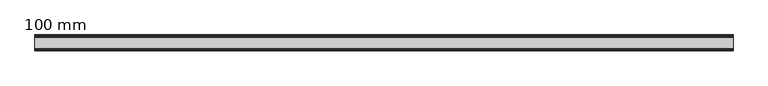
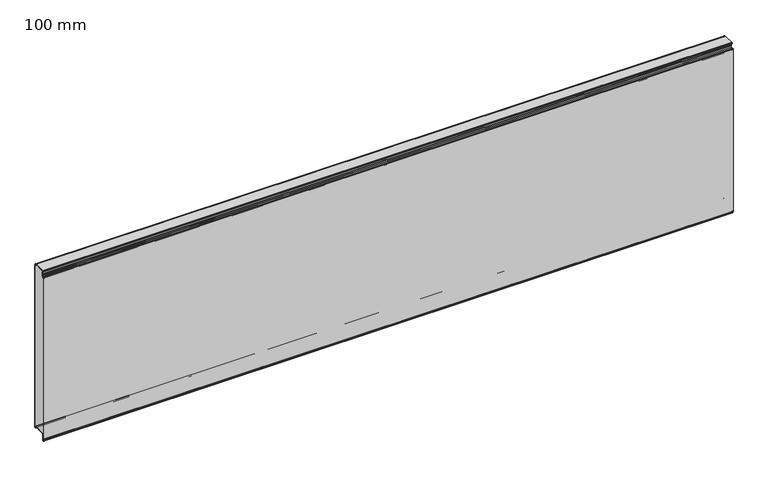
"""IFC4 building model written with IfcOpenShell, lengths in millimetres: plate geometry, HIANSA PANEL - H20.F05.004-HFM-PANELES DE FACHADA HOR - PANEL LISO - Panel de Muro Cortina : 100 mm."""

from ifc_helpers import new_model, si_unit, point, frame, frame_2d, origin, place, context, project, spatial, polyline, circle_curve, trimmed, segment, composite_curve, outline, extrude, source, transform, mapped, element, save


def plate_100_mm_0b3a8853(model_context):
    return source(origin(), model_context, "Body", "SweptSolid", [
        extrude(outline(polyline([(-83.7988607, 1122.7800953), (-83.0080811, 1123.2810466), (-13.7002601, 1123.2810466), (-12.8994274, 1122.7800953), (-83.7988607, 1122.7800953)])), frame((-2200.0, 0.0, 0.0), z_axis=(1.0, 0.0, 0.0), x_axis=(0.0, 1.0, 0.0)), (0.0, 0.0, 1.0), 4400.0),
        extrude(outline(polyline([(-83.772834, 25.3210467), (-12.920579, 25.3210467), (-13.7002597, 24.8210465), (-83.011032, 24.8210465), (-83.772834, 25.3210467)])), frame((-2200.0, 0.0, 0.0), z_axis=(1.0, 0.0, 0.0), x_axis=(0.0, 1.0, 0.0)), (0.0, 0.0, 1.0), 4400.0),
        extrude(outline(composite_curve([segment(polyline([(-99.9990488, 1086.1667807), (-99.3593999, 1088.7253764)]), True, "CONTINUOUS"), segment(trimmed(circle_curve(frame_2d((-97.5161291, 1088.2645587)), 1.9), [point((-99.3593999, 1088.7253764))], [point((-97.5161291, 1090.1645587))], False, "CARTESIAN"), True, "CONTINUOUS"), segment(polyline([(-97.5161291, 1090.1645587), (-95.3767084, 1090.1645587)]), True, "CONTINUOUS"), segment(trimmed(circle_curve(frame_2d((-95.3767084, 1089.1645587)), 1.0), [point((-95.3767084, 1090.1645587))], [point((-94.3767084, 1089.1645587))], False, "CARTESIAN"), True, "CONTINUOUS"), segment(polyline([(-94.3767084, 1089.1645587), (-94.3767084, 1079.2490488)]), True, "CONTINUOUS"), segment(trimmed(circle_curve(frame_2d((-93.3767084, 1079.2490488)), 1.0), [point((-94.3767084, 1079.2490488))], [point((-93.3767084, 1078.2490488))], True, "CARTESIAN"), True, "CONTINUOUS"), segment(polyline([(-93.3767084, 1078.2490488), (-89.1267084, 1078.2490488)]), True, "CONTINUOUS"), segment(trimmed(circle_curve(frame_2d((-89.1267084, 1079.2490488)), 1.0), [point((-89.1267084, 1078.2490488))], [point((-88.1267084, 1079.2490488))], True, "CARTESIAN"), True, "CONTINUOUS"), segment(polyline([(-88.1267084, 1079.2490488), (-88.1267084, 1082.1003519)]), True, "CONTINUOUS"), segment(trimmed(circle_curve(frame_2d((-86.1267084, 1082.1003519)), 2.0), [point((-88.1267084, 1082.1003519))], [point((-87.2738613, 1083.738656))], False, "CARTESIAN"), True, "CONTINUOUS"), segment(polyline([(-87.2738613, 1083.738656), (-81.2163437, 1087.9801754)]), True, "CONTINUOUS"), segment(trimmed(circle_curve(frame_2d((-82.0767084, 1089.2089035)), 1.5), [point((-81.2163437, 1087.9801754))], [point((-80.5767084, 1089.2089035))], True, "CARTESIAN"), True, "CONTINUOUS"), segment(polyline([(-80.5767084, 1089.2089035), (-80.5767084, 1098.4402031), (-79.6767084, 1099.9990488), (-80.5767084, 1101.5578945), (-80.5767084, 1110.7891941)]), True, "CONTINUOUS"), segment(trimmed(circle_curve(frame_2d((-82.0767084, 1110.7891941)), 1.5), [point((-80.5767084, 1110.7891941))], [point((-81.2163437, 1112.0179221))], True, "CARTESIAN"), True, "CONTINUOUS"), segment(polyline([(-81.2163437, 1112.0179221), (-87.2738613, 1116.2594416)]), True, "CONTINUOUS"), segment(trimmed(circle_curve(frame_2d((-86.1267084, 1117.8977457)), 2.0), [point((-87.2738613, 1116.2594416))], [point((-88.1267084, 1117.8977457))], False, "CARTESIAN"), True, "CONTINUOUS"), segment(polyline([(-88.1267084, 1117.8977457), (-88.1267084, 1121.2800953)]), True, "CONTINUOUS"), segment(trimmed(circle_curve(frame_2d((-86.1267084, 1121.2800953)), 2.0), [point((-88.1267084, 1121.2800953))], [point((-86.1267084, 1123.2800953))], False, "CARTESIAN"), True, "CONTINUOUS"), segment(polyline([(-86.1267084, 1123.2800953), (-83.0095828, 1123.2800953), (-83.7988607, 1122.7800953), (-86.1267084, 1122.7800953)]), True, "CONTINUOUS"), segment(trimmed(circle_curve(frame_2d((-86.1267084, 1121.2800953)), 1.5), [point((-86.1267084, 1122.7800953))], [point((-87.6267084, 1121.2800953))], True, "CARTESIAN"), True, "CONTINUOUS"), segment(polyline([(-87.6267084, 1121.2800953), (-87.6267084, 1117.8977457)]), True, "CONTINUOUS"), segment(trimmed(circle_curve(frame_2d((-86.1267084, 1117.8977457)), 1.5), [point((-87.6267084, 1117.8977457))], [point((-86.987073, 1116.6690176))], True, "CARTESIAN"), True, "CONTINUOUS"), segment(polyline([(-86.987073, 1116.6690176), (-80.9295555, 1112.4274982)]), True, "CONTINUOUS"), segment(trimmed(circle_curve(frame_2d((-82.0767084, 1110.7891941)), 2.0), [point((-80.9295555, 1112.4274982))], [point((-80.0767084, 1110.7891941))], False, "CARTESIAN"), True, "CONTINUOUS"), segment(polyline([(-80.0767084, 1110.7891941), (-80.0767084, 1101.6918691), (-79.3880333, 1100.4990488)]), True, "CONTINUOUS"), segment(trimmed(circle_curve(frame_2d((-80.2540587, 1099.9990488)), 1.0), [point((-79.3880333, 1100.4990488))], [point((-79.3880333, 1099.4990488))], False, "CARTESIAN"), True, "CONTINUOUS"), segment(polyline([(-79.3880333, 1099.4990488), (-80.0767084, 1098.3062285), (-80.0767084, 1089.2089035)]), True, "CONTINUOUS"), segment(trimmed(circle_curve(frame_2d((-82.0767084, 1089.2089035)), 2.0), [point((-80.0767084, 1089.2089035))], [point((-80.9295555, 1087.5705994))], False, "CARTESIAN"), True, "CONTINUOUS"), segment(polyline([(-80.9295555, 1087.5705994), (-86.987073, 1083.32908)]), True, "CONTINUOUS"), segment(trimmed(circle_curve(frame_2d((-86.1267084, 1082.1003519)), 1.5), [point((-86.987073, 1083.32908))], [point((-87.6267084, 1082.1003519))], True, "CARTESIAN"), True, "CONTINUOUS"), segment(polyline([(-87.6267084, 1082.1003519), (-87.6267084, 1079.2490488)]), True, "CONTINUOUS"), segment(trimmed(circle_curve(frame_2d((-89.1267084, 1079.2490488)), 1.5), [point((-87.6267084, 1079.2490488))], [point((-89.1267084, 1077.7490488))], False, "CARTESIAN"), True, "CONTINUOUS"), segment(polyline([(-89.1267084, 1077.7490488), (-93.3767084, 1077.7490488)]), True, "CONTINUOUS"), segment(trimmed(circle_curve(frame_2d((-93.3767084, 1079.2490488)), 1.5), [point((-93.3767084, 1077.7490488))], [point((-94.8767084, 1079.2490488))], False, "CARTESIAN"), True, "CONTINUOUS"), segment(polyline([(-94.8767084, 1079.2490488), (-94.8767084, 1089.6645587), (-97.5161291, 1089.6645587)]), True, "CONTINUOUS"), segment(trimmed(circle_curve(frame_2d((-97.5161291, 1088.2645587)), 1.4), [point((-97.5161291, 1089.6645587))], [point((-98.8743286, 1088.6041086))], True, "CARTESIAN"), True, "CONTINUOUS"), segment(polyline([(-98.8743286, 1088.6041086), (-99.4990488, 1086.1052279), (-99.4990488, -5.7761105), (-98.8741312, -8.2757808)]), True, "CONTINUOUS"), segment(trimmed(circle_curve(frame_2d((-97.5169431, -7.9364838)), 1.3989577), [point((-98.8741312, -8.2757808))], [point((-97.5169431, -9.3354415))], True, "CARTESIAN"), True, "CONTINUOUS"), segment(polyline([(-97.5169431, -9.3354415), (-95.1267084, -9.3354413)]), True, "CONTINUOUS"), segment(trimmed(circle_curve(frame_2d((-95.1267084, -10.8354413)), 1.5), [point((-95.1267084, -9.3354413))], [point((-93.6267084, -10.8354413))], False, "CARTESIAN"), True, "CONTINUOUS"), segment(polyline([(-93.6267084, -10.8354413), (-93.6267084, -20.7509512), (-88.8767084, -20.7509512), (-88.8767084, 22.7800953)]), True, "CONTINUOUS"), segment(trimmed(circle_curve(frame_2d((-86.3367084, 22.7800953)), 2.54), [point((-88.8767084, 22.7800953))], [point((-86.3367084, 25.3200953))], False, "CARTESIAN"), True, "CONTINUOUS"), segment(polyline([(-86.3367084, 25.3200953), (-83.7713844, 25.3200953), (-83.0095828, 24.8200953), (-86.3367084, 24.8200953)]), True, "CONTINUOUS"), segment(trimmed(circle_curve(frame_2d((-86.3367084, 22.7800953)), 2.04), [point((-86.3367084, 24.8200953))], [point((-88.3767084, 22.7800953))], True, "CARTESIAN"), True, "CONTINUOUS"), segment(polyline([(-88.3767084, 22.7800953), (-88.3767084, -20.2509512)]), True, "CONTINUOUS"), segment(trimmed(circle_curve(frame_2d((-89.3767084, -20.2509512)), 1.0), [point((-88.3767084, -20.2509512))], [point((-89.3767084, -21.2509512))], False, "CARTESIAN"), True, "CONTINUOUS"), segment(polyline([(-89.3767084, -21.2509512), (-93.1267084, -21.2509512)]), True, "CONTINUOUS"), segment(trimmed(circle_curve(frame_2d((-93.1267084, -20.2509512)), 1.0), [point((-93.1267084, -21.2509512))], [point((-94.1267084, -20.2509512))], False, "CARTESIAN"), True, "CONTINUOUS"), segment(polyline([(-94.1267084, -20.2509512), (-94.1267084, -10.8354413)]), True, "CONTINUOUS"), segment(trimmed(circle_curve(frame_2d((-95.1267084, -10.8354413)), 1.0), [point((-94.1267084, -10.8354413))], [point((-95.1267084, -9.8354413))], True, "CARTESIAN"), True, "CONTINUOUS"), segment(polyline([(-95.1267084, -9.8354413), (-97.5161291, -9.8354413)]), True, "CONTINUOUS"), segment(trimmed(circle_curve(frame_2d((-97.5161291, -7.9354413)), 1.9), [point((-97.5161291, -9.8354413))], [point((-99.3593999, -8.396259))], False, "CARTESIAN"), True, "CONTINUOUS"), segment(polyline([(-99.3593999, -8.396259), (-99.9990488, -5.8376633), (-99.9990488, 1086.1667807)]), True, "CONTINUOUS")], self_intersect=False)), frame((-2200.0, 0.0, 0.0), z_axis=(1.0, 0.0, 0.0), x_axis=(0.0, 1.0, 0.0)), (0.0, 0.0, 1.0), 4400.0),
        extrude(outline(composite_curve([segment(polyline([(-99.4927405, -5.8041988), (-99.4927405, 1086.1352189), (-98.8752803, 1088.6050599)]), True, "CONTINUOUS"), segment(trimmed(circle_curve(frame_2d((-97.5170808, 1088.26551)), 1.4), [point((-98.8752803, 1088.6050599))], [point((-97.5170808, 1089.66551))], False, "CARTESIAN"), True, "CONTINUOUS"), segment(polyline([(-97.5170808, 1089.66551), (-94.8776601, 1089.66551), (-94.8776601, 1079.2500001)]), True, "CONTINUOUS"), segment(trimmed(circle_curve(frame_2d((-93.3776601, 1079.2500001)), 1.5), [point((-94.8776601, 1079.2500001))], [point((-93.3776601, 1077.7500001))], True, "CARTESIAN"), True, "CONTINUOUS"), segment(polyline([(-93.3776601, 1077.7500001), (-89.1276601, 1077.7500001)]), True, "CONTINUOUS"), segment(trimmed(circle_curve(frame_2d((-89.1276601, 1079.2500001)), 1.5), [point((-89.1276601, 1077.7500001))], [point((-87.6276601, 1079.2500001))], True, "CARTESIAN"), True, "CONTINUOUS"), segment(polyline([(-87.6276601, 1079.2500001), (-87.6276601, 1082.1013032)]), True, "CONTINUOUS"), segment(trimmed(circle_curve(frame_2d((-86.1276601, 1082.1013032)), 1.5), [point((-87.6276601, 1082.1013032))], [point((-86.9880247, 1083.3300313))], False, "CARTESIAN"), True, "CONTINUOUS"), segment(polyline([(-86.9880247, 1083.3300313), (-80.9305072, 1087.5715507)]), True, "CONTINUOUS"), segment(trimmed(circle_curve(frame_2d((-82.0776601, 1089.2098548)), 2.0), [point((-80.9305072, 1087.5715507))], [point((-80.0776601, 1089.2098548))], True, "CARTESIAN"), True, "CONTINUOUS"), segment(polyline([(-80.0776601, 1089.2098548), (-80.0776601, 1098.3071798), (-79.3889849, 1099.5000001)]), True, "CONTINUOUS"), segment(trimmed(circle_curve(frame_2d((-80.2550103, 1100.0000001)), 1.0), [point((-79.3889849, 1099.5000001))], [point((-79.3889849, 1100.5000001))], True, "CARTESIAN"), True, "CONTINUOUS"), segment(polyline([(-79.3889849, 1100.5000001), (-80.0776601, 1101.6928204), (-80.0776601, 1110.7901454)]), True, "CONTINUOUS"), segment(trimmed(circle_curve(frame_2d((-82.0776601, 1110.7901454)), 2.0), [point((-80.0776601, 1110.7901454))], [point((-80.9305072, 1112.4284495))], True, "CARTESIAN"), True, "CONTINUOUS"), segment(polyline([(-80.9305072, 1112.4284495), (-86.9880247, 1116.6699689)]), True, "CONTINUOUS"), segment(trimmed(circle_curve(frame_2d((-86.1276601, 1117.898697)), 1.5), [point((-86.9880247, 1116.6699689))], [point((-87.6276601, 1117.898697))], False, "CARTESIAN"), True, "CONTINUOUS"), segment(polyline([(-87.6276601, 1117.898697), (-87.6276601, 1121.2810466)]), True, "CONTINUOUS"), segment(trimmed(circle_curve(frame_2d((-86.1276601, 1121.2810466)), 1.5), [point((-87.6276601, 1121.2810466))], [point((-86.1276601, 1122.7810466))], False, "CARTESIAN"), True, "CONTINUOUS"), segment(polyline([(-86.1276601, 1122.7810466), (-7.7500005, 1122.7810466)]), True, "CONTINUOUS"), segment(trimmed(circle_curve(frame_2d((-7.7500005, 1121.7810466)), 1.0), [point((-7.7500005, 1122.7810466))], [point((-6.7500005, 1121.7810466))], False, "CARTESIAN"), True, "CONTINUOUS"), segment(polyline([(-6.7500005, 1121.7810466), (-6.7500005, 1115.631732)]), True, "CONTINUOUS"), segment(trimmed(circle_curve(frame_2d((-4.7460005, 1115.631732)), 2.004), [point((-6.7500005, 1115.631732))], [point((-4.7460005, 1113.627732))], True, "CARTESIAN"), True, "CONTINUOUS"), segment(polyline([(-4.7460005, 1113.627732), (-1.5, 1113.627732)]), True, "CONTINUOUS"), segment(trimmed(circle_curve(frame_2d((-1.5, 1112.627732)), 1.0), [point((-1.5, 1113.627732))], [point((-0.5, 1112.627732))], False, "CARTESIAN"), True, "CONTINUOUS"), segment(polyline([(-0.5, 1112.627732), (-0.5, 1087.7488722), (-1.5000005, 1084.7488708), (-1.5000005, 1044.5865932), (-0.5000005, 1041.5865932), (-0.5000005, 996.7488708), (-1.5000005, 993.7488708), (-1.5000005, 953.5865932), (-0.5000005, 950.5865932), (-0.5000005, 905.7488708), (-1.5000005, 902.7488708), (-1.5000005, 862.5865932), (-0.5000005, 859.5865932), (-0.5000005, 814.7488708), (-1.5000005, 811.7488708), (-1.5000005, 771.5865932), (-0.5000005, 768.5865932), (-0.5000005, 723.7488708), (-1.5000005, 720.7488708), (-1.5000005, 680.5865932), (-0.5000005, 677.5865932), (-0.5000005, 632.7488708), (-1.5000005, 629.7488708), (-1.5000005, 589.5865932), (-0.5000005, 586.5865932), (-0.5000005, 541.7488708), (-1.5000005, 538.7488708), (-1.5000005, 498.5865932), (-0.5000005, 495.5865932), (-0.5000005, 450.7488708), (-1.5000005, 447.7488708), (-1.5000005, 407.5865932), (-0.5000005, 404.5865932), (-0.5000005, 359.7488708), (-1.5000005, 356.7488708), (-1.5000005, 316.5865932), (-0.5000005, 313.5865932), (-0.5000005, 268.7488708), (-1.5000005, 265.7488708), (-1.5000005, 225.5865932), (-0.5000005, 222.5865932), (-0.5000005, 177.7488708), (-1.5000005, 174.7488708), (-1.5000005, 134.5865932), (-0.5000005, 131.5865932), (-0.5000005, 86.7488708), (-1.5000005, 83.7488708), (-1.5000005, 43.5865932), (-0.5, 40.5865932), (-0.5, 15.6677319)]), True, "CONTINUOUS"), segment(trimmed(circle_curve(frame_2d((-1.4999997, 15.6677319)), 0.9999997), [point((-0.5, 15.6677319))], [point((-1.4999977, 14.6677322))], False, "CARTESIAN"), True, "CONTINUOUS"), segment(polyline([(-1.4999977, 14.6677322), (-4.4999978, 14.6677261)]), True, "CONTINUOUS"), segment(trimmed(circle_curve(frame_2d((-4.4999998, 15.6677321)), 1.0000061), [point((-4.4999978, 14.6677261))], [point((-5.5000059, 15.6677321))], False, "CARTESIAN"), True, "CONTINUOUS"), segment(polyline([(-5.5000059, 15.6677321), (-5.5000059, 23.2810466)]), True, "CONTINUOUS"), segment(trimmed(circle_curve(frame_2d((-7.540006, 23.2810466)), 2.0400002), [point((-5.5000059, 23.2810466))], [point((-7.540006, 25.3210467))], True, "CARTESIAN"), True, "CONTINUOUS"), segment(polyline([(-7.540006, 25.3210467), (-86.3376601, 25.3210467)]), True, "CONTINUOUS"), segment(trimmed(circle_curve(frame_2d((-86.3376601, 22.7810466)), 2.54), [point((-86.3376601, 25.3210467))], [point((-88.8776601, 22.7810466))], True, "CARTESIAN"), True, "CONTINUOUS"), segment(polyline([(-88.8776601, 22.7810466), (-88.8776601, -20.7499999), (-93.6276601, -20.7499999), (-93.6276601, -10.83449)]), True, "CONTINUOUS"), segment(trimmed(circle_curve(frame_2d((-95.1276601, -10.83449)), 1.5), [point((-93.6276601, -10.83449))], [point((-95.1276601, -9.33449))], True, "CARTESIAN"), True, "CONTINUOUS"), segment(polyline([(-95.1276601, -9.33449), (-97.5178947, -9.33449)]), True, "CONTINUOUS"), segment(trimmed(circle_curve(frame_2d((-97.5178947, -7.9355324)), 1.3989576), [point((-97.5178947, -9.33449))], [point((-98.8750829, -8.2748295))], False, "CARTESIAN"), True, "CONTINUOUS"), segment(polyline([(-98.8750829, -8.2748295), (-99.4927405, -5.8041988)]), True, "CONTINUOUS")], self_intersect=False)), frame((-2200.0, 0.0, 0.0), z_axis=(1.0, 0.0, 0.0), x_axis=(0.0, 1.0, 0.0)), (0.0, 0.0, 1.0), 4400.0),
        extrude(outline(composite_curve([segment(polyline([(-13.7002597, 24.8210465), (-12.9205793, 25.3210465), (-7.5400057, 25.3210465)]), True, "CONTINUOUS"), segment(trimmed(circle_curve(frame_2d((-7.5400057, 23.2810465)), 2.04), [point((-7.5400057, 25.3210465))], [point((-5.5000057, 23.2810465))], False, "CARTESIAN"), True, "CONTINUOUS"), segment(polyline([(-5.5000057, 23.2810465), (-5.5000057, 15.6677319)]), True, "CONTINUOUS"), segment(trimmed(circle_curve(frame_2d((-4.5, 15.6677319)), 1.0000057), [point((-5.5000057, 15.6677319))], [point((-4.4999981, 14.6677262))], True, "CARTESIAN"), True, "CONTINUOUS"), segment(polyline([(-4.4999981, 14.6677262), (-1.4999981, 14.6677319)]), True, "CONTINUOUS"), segment(trimmed(circle_curve(frame_2d((-1.5, 15.6677319)), 1.0), [point((-1.4999981, 14.6677319))], [point((-0.5, 15.6677319))], True, "CARTESIAN"), True, "CONTINUOUS"), segment(polyline([(-0.5, 15.6677319), (-0.5, 40.5865931), (-1.5, 43.5865931), (-1.5, 83.7488708), (-0.5, 86.7488708), (-0.5, 131.5865931), (-1.5, 134.5865931), (-1.5, 174.7488708), (-0.5, 177.7488708), (-0.5, 222.5865931), (-1.5, 225.5865931), (-1.5, 265.7488708), (-0.5, 268.7488708), (-0.5, 313.5865931), (-1.5, 316.5865931), (-1.5, 356.7488708), (-0.5, 359.7488708), (-0.5, 404.5865931), (-1.5, 407.5865931), (-1.5, 447.7488708), (-0.5, 450.7488708), (-0.5, 495.5865931), (-1.5, 498.5865931), (-1.5, 538.7488708), (-0.5, 541.7488708), (-0.5, 586.5865931), (-1.5, 589.5865931), (-1.5, 629.7488708), (-0.5, 632.7488708), (-0.5, 677.5865931), (-1.5, 680.5865931), (-1.5, 720.7488708), (-0.5, 723.7488708), (-0.5, 768.5865931), (-1.5, 771.5865931), (-1.5, 811.7488708), (-0.5, 814.7488708), (-0.5, 859.5865931), (-1.5, 862.5865931), (-1.5, 902.7488708), (-0.5, 905.7488708), (-0.5, 950.5865931), (-1.5, 953.5865931), (-1.5, 993.7488708), (-0.5, 996.7488708), (-0.5, 1041.5865931), (-1.5, 1044.5865931), (-1.5, 1084.7488708), (-0.5, 1087.7488708), (-0.5, 1112.6277319)]), True, "CONTINUOUS"), segment(trimmed(circle_curve(frame_2d((-1.5, 1112.6277319)), 1.0), [point((-0.5, 1112.6277319))], [point((-1.5, 1113.6277319))], True, "CARTESIAN"), True, "CONTINUOUS"), segment(polyline([(-1.5, 1113.6277319), (-4.746, 1113.6277319)]), True, "CONTINUOUS"), segment(trimmed(circle_curve(frame_2d((-4.746, 1115.6317319)), 2.004), [point((-4.746, 1113.6277319))], [point((-6.75, 1115.6317319))], False, "CARTESIAN"), True, "CONTINUOUS"), segment(polyline([(-6.75, 1115.6317319), (-6.75, 1121.7810465)]), True, "CONTINUOUS"), segment(trimmed(circle_curve(frame_2d((-7.75, 1121.7810465)), 1.0), [point((-6.75, 1121.7810465))], [point((-7.75, 1122.7810465))], True, "CARTESIAN"), True, "CONTINUOUS"), segment(polyline([(-7.75, 1122.7810465), (-12.9009477, 1122.7810465), (-13.7002597, 1123.2810465), (-7.7500057, 1123.2810465)]), True, "CONTINUOUS"), segment(trimmed(circle_curve(frame_2d((-7.7500057, 1121.7810465)), 1.5), [point((-7.7500057, 1123.2810465))], [point((-6.2500057, 1121.7810465))], False, "CARTESIAN"), True, "CONTINUOUS"), segment(polyline([(-6.2500057, 1121.7810465), (-6.2500057, 1115.631727)]), True, "CONTINUOUS"), segment(trimmed(circle_curve(frame_2d((-4.7460057, 1115.631727)), 1.504), [point((-6.2500057, 1115.631727))], [point((-4.7460034, 1114.127727))], True, "CARTESIAN"), True, "CONTINUOUS"), segment(polyline([(-4.7460034, 1114.127727), (-1.5000023, 1114.1277319)]), True, "CONTINUOUS"), segment(trimmed(circle_curve(frame_2d((-1.5, 1112.6277319)), 1.5), [point((-1.5000023, 1114.1277319))], [point((0.0, 1112.6277319))], False, "CARTESIAN"), True, "CONTINUOUS"), segment(polyline([(0.0, 1112.6277319), (0.0, 1087.6677319), (-1.0, 1084.6677319), (-1.0, 1044.6677319), (0.0, 1041.6677319), (0.0, 996.6677319), (-1.0, 993.6677319), (-1.0, 953.6677319), (0.0, 950.6677319), (0.0, 905.6677319), (-1.0, 902.6677319), (-1.0, 862.6677319), (0.0, 859.6677319), (0.0, 814.6677319), (-1.0, 811.6677319), (-1.0, 771.6677319), (0.0, 768.6677319), (0.0, 723.6677319), (-1.0, 720.6677319), (-1.0, 680.6677319), (0.0, 677.6677319), (0.0, 632.6677319), (-1.0, 629.6677319), (-1.0, 589.6677319), (0.0, 586.6677319), (0.0, 541.6677319), (-1.0, 538.6677319), (-1.0, 498.6677319), (0.0, 495.6677319), (0.0, 450.6677319), (-1.0, 447.6677319), (-1.0, 407.6677319), (0.0, 404.6677319), (0.0, 359.6677319), (-1.0, 356.6677319), (-1.0, 316.6677319), (0.0, 313.6677319), (0.0, 268.6677319), (-1.0, 265.6677319), (-1.0, 225.6677319), (0.0, 222.6677319), (0.0, 177.6677319), (-1.0, 174.6677319), (-1.0, 134.6677319), (0.0, 131.6677319), (0.0, 86.6677319), (-1.0, 83.6677319), (-1.0, 43.6677319), (0.0, 40.6677319), (0.0, 15.6677319)]), True, "CONTINUOUS"), segment(trimmed(circle_curve(frame_2d((-1.5, 15.6677319)), 1.5), [point((0.0, 15.6677319))], [point((-1.5, 14.1677319))], False, "CARTESIAN"), True, "CONTINUOUS"), segment(polyline([(-1.5, 14.1677319), (-4.5, 14.1677319)]), True, "CONTINUOUS"), segment(trimmed(circle_curve(frame_2d((-4.5, 15.6677319)), 1.5), [point((-4.5, 14.1677319))], [point((-6.0, 15.6677319))], False, "CARTESIAN"), True, "CONTINUOUS"), segment(polyline([(-6.0, 15.6677319), (-6.0, 23.2810465)]), True, "CONTINUOUS"), segment(trimmed(circle_curve(frame_2d((-7.54, 23.2810465)), 1.54), [point((-6.0, 23.2810465))], [point((-7.54, 24.8210465))], True, "CARTESIAN"), True, "CONTINUOUS"), segment(polyline([(-7.54, 24.8210465), (-13.7002597, 24.8210465)]), True, "CONTINUOUS")], self_intersect=False)), frame((-2200.0, 0.0, 0.0), z_axis=(1.0, 0.0, 0.0), x_axis=(0.0, 1.0, 0.0)), (0.0, 0.0, 1.0), 4400.0),
    ])


if __name__ == "__main__":
    model = new_model("IFC4")
    model_context = context("Model", 3, world=origin())
    ifc_project = project(units=[si_unit("LENGTHUNIT", "METRE", prefix="MILLI")], contexts=[model_context])
    site = spatial("IfcSite", under=ifc_project)
    building = spatial("IfcBuilding", under=site)
    placement = place(None, origin())
    plate_100_mm_shape = plate_100_mm_0b3a8853(model_context)
    element("IfcPlate", 1, ObjectType="HIANSA PANEL - H20.F05.004-HFM-PANELES DE FACHADA HOR - PANEL LISO - Panel de Muro Cortina : 100 mm", at=placement, inside=building, context=model_context, shape_type="MappedRepresentation", body=[
        mapped(plate_100_mm_shape, transform((0.0, 0.0, 0.0), x_axis=(1.0, 0.0, 0.0), y_axis=(0.0, 1.0, 0.0), z_axis=(0.0, 0.0, 1.0))),
    ])
    save(model, "model.ifc")
